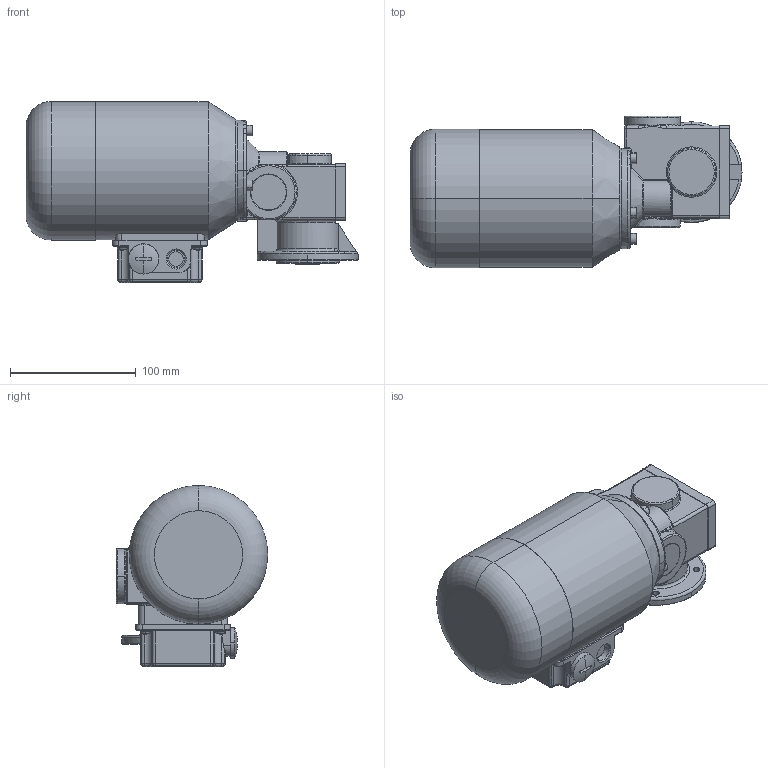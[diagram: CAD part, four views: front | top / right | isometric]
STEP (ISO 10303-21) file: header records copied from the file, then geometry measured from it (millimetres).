
FILE_DESCRIPTION (( 'STEP AP214' ), '1' );
FILE_NAME ('SN6FH_120W_2800Upm_Drehstrom-Motor_B.STEP', '2021-08-10T09:32:39', ( '' ), ( '' ), 'SwSTEP 2.0', 'SolidWorks 2019', '' );
FILE_SCHEMA (( 'AUTOMOTIVE_DESIGN' ));
Length unit declared in the file: millimetre
Products named in the file (10): 06FH-W-001_3D-Export; socket head cap screw_iso_ISO 4762 M5 x 16 - 16C; 06F-D-003_3D-Export; 06-M-066 I 120W_2800Upm; K_28x4.0; SN6FH_3D-Export; NBR_WDR_20x37x7; socket head cap screw_iso_ISO 4762 M3 x 10 - 10C; SN6FH_120W_2800Upm_Drehstrom-Motor_B; 06FH-G-001_3D-Export
Assembly tree (15 placements, depth 3):
  SN6FH_120W_2800Upm_Drehstrom-Motor_B
    SN6FH_3D-Export
      06FH-G-001_3D-Export
      06F-D-003_3D-Export
      06FH-W-001_3D-Export
      K_28x4.0  x2
      NBR_WDR_20x37x7
      socket head cap screw_iso_ISO 4762 M3 x 10 - 10C  x4
      socket head cap screw_iso_ISO 4762 M5 x 16 - 16C  x3
    06-M-066 I 120W_2800Upm
Bounding box: 263.5 x 120.3 x 143.7 mm (x, y, z)
Volume: 1963670.5 mm3; surface area: 180698.2 mm2
Topology: 15 solids, 15 shells, 925 faces, 2262 edges, 1361 vertices
Faces by surface type: cylinder 279, plane 241, torus 172, cone 151, bspline 54, sphere 28
Entity records: 27976 total; most frequent: CARTESIAN_POINT 8861, DIRECTION 4160, ORIENTED_EDGE 3824, EDGE_CURVE 1912, AXIS2_PLACEMENT_3D 1777, VERTEX_POINT 1188, CIRCLE 1029, EDGE_LOOP 850
